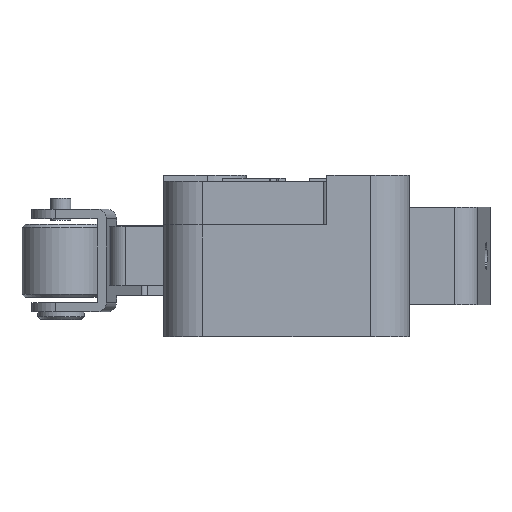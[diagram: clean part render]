
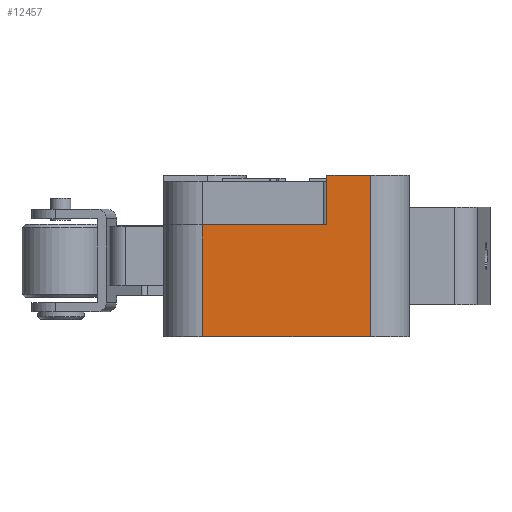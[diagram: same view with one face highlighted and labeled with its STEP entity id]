
A CAD part, left-side view. The second image highlights one B-rep face of the part: STEP entity #12457.
In plain terms, the highlighted planar face has unit normal (-1, 0, 0).
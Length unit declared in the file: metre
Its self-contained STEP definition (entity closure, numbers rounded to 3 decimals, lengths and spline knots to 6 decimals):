
#12117=CARTESIAN_POINT('',(-0.027238,-0.006323,0.022913));
#12118=VERTEX_POINT('',#12117);
#12121=CARTESIAN_POINT('',(-0.027238,-0.006323,0.030113));
#12122=DIRECTION('',(0.,0.,-1.));
#12123=VECTOR('',#12122,1.);
#12124=LINE('',#12121,#12123);
#12125=CARTESIAN_POINT('',(-0.027238,-0.006323,0.030113));
#12126=VERTEX_POINT('',#12125);
#12127=EDGE_CURVE('',#12126,#12118,#12124,.T.);
#12325=CARTESIAN_POINT('',(-0.027238,-0.017123,0.033313));
#12326=VERTEX_POINT('',#12325);
#12360=CARTESIAN_POINT('',(-0.027238,-0.014323,0.033313));
#12361=VERTEX_POINT('',#12360);
#12364=CARTESIAN_POINT('',(-0.027238,-0.014323,0.033313));
#12365=DIRECTION('',(0.,-1.,0.));
#12366=VECTOR('',#12365,1.);
#12367=LINE('',#12364,#12366);
#12368=EDGE_CURVE('',#12361,#12326,#12367,.T.);
#12397=CARTESIAN_POINT('',(-0.027238,-0.017123,0.022913));
#12398=VERTEX_POINT('',#12397);
#12410=CARTESIAN_POINT('',(-0.027238,-0.017123,0.033313));
#12411=DIRECTION('',(0.,0.,-1.));
#12412=VECTOR('',#12411,1.);
#12413=LINE('',#12410,#12412);
#12414=EDGE_CURVE('',#12326,#12398,#12413,.T.);
#12427=CARTESIAN_POINT('',(-0.027238,-0.014323,0.033313));
#12428=DIRECTION('',(1.,0.,0.));
#12429=DIRECTION('',(0.,1.,0.));
#12430=AXIS2_PLACEMENT_3D('',#12427,#12428,#12429);
#12431=PLANE('',#12430);
#12432=CARTESIAN_POINT('',(-0.027238,-0.014323,0.022913));
#12433=DIRECTION('',(0.,-1.,0.));
#12434=VECTOR('',#12433,1.);
#12435=LINE('',#12432,#12434);
#12436=EDGE_CURVE('',#12118,#12398,#12435,.T.);
#12437=ORIENTED_EDGE('',*,*,#12436,.T.);
#12438=ORIENTED_EDGE('',*,*,#12414,.F.);
#12439=ORIENTED_EDGE('',*,*,#12368,.F.);
#12440=CARTESIAN_POINT('',(-0.027238,-0.014323,0.033313));
#12441=DIRECTION('',(0.,0.,-1.));
#12442=VECTOR('',#12441,1.);
#12443=LINE('',#12440,#12442);
#12444=CARTESIAN_POINT('',(-0.027238,-0.014323,0.030113));
#12445=VERTEX_POINT('',#12444);
#12446=EDGE_CURVE('',#12361,#12445,#12443,.T.);
#12447=ORIENTED_EDGE('',*,*,#12446,.T.);
#12448=CARTESIAN_POINT('',(-0.027238,-0.011723,0.030113));
#12449=DIRECTION('',(0.,-1.,0.));
#12450=VECTOR('',#12449,1.);
#12451=LINE('',#12448,#12450);
#12452=EDGE_CURVE('',#12126,#12445,#12451,.T.);
#12453=ORIENTED_EDGE('',*,*,#12452,.F.);
#12454=ORIENTED_EDGE('',*,*,#12127,.T.);
#12455=EDGE_LOOP('',(#12437,#12438,#12439,#12447,#12453,#12454));
#12456=FACE_BOUND('',#12455,.T.);
#12457=ADVANCED_FACE('',(#12456),#12431,.F.);
